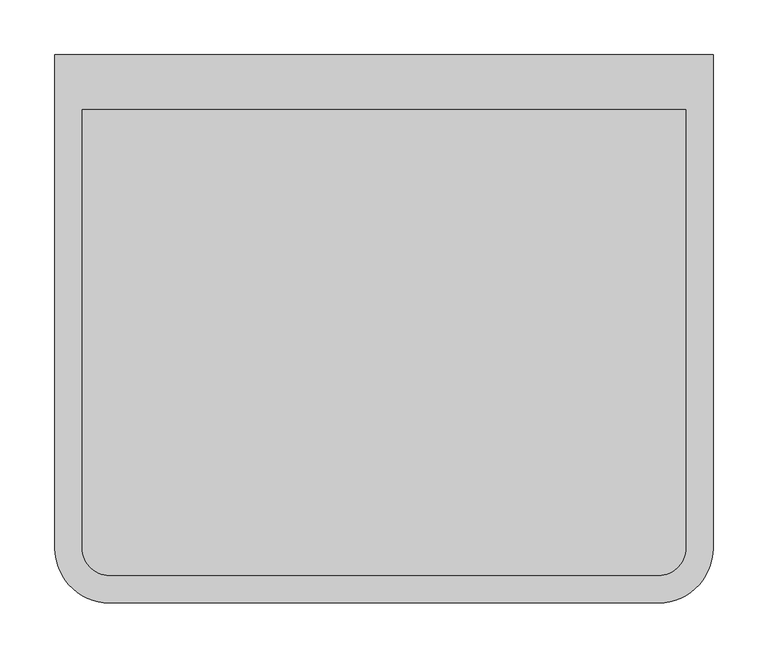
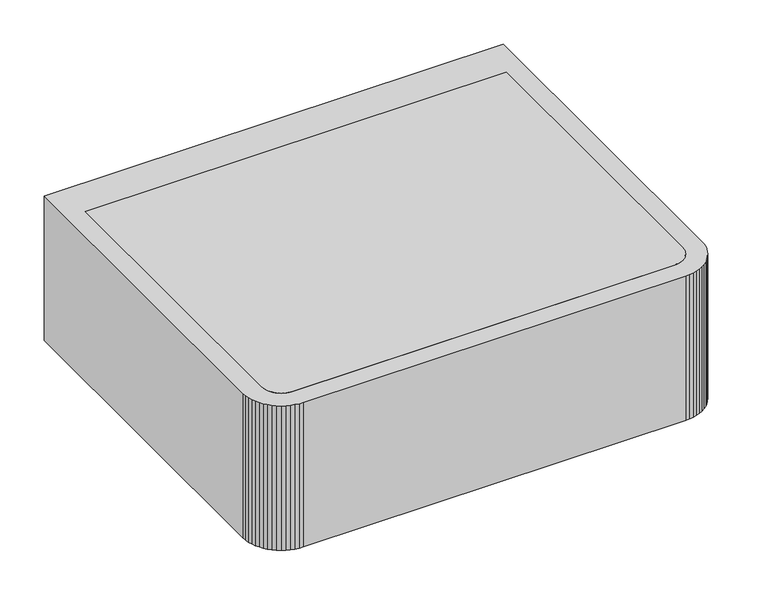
"""IFC4 building model written with IfcOpenShell, lengths in millimetres: proxy geometry, Ausgussbecken : Ausgussbecken."""

from ifc_helpers import new_model, si_unit, frame, origin, place, context, project, spatial, polyline, outline, extrude, source, transform, mapped, element, save


def generic_models_af65d3da(model_context):
    return source(origin(), model_context, "Body", "SweptSolid", [
        extrude(outline(polyline([(20356.8899067, 12600.0), (20906.8899067, 12600.0), (20906.8899067, 12200.0), (20906.7529541, 12197.3867884), (20906.3435967, 12194.8022077), (20905.6663196, 12192.2745751), (20904.7285431, 12189.8315839), (20903.5405418, 12187.5), (20902.1153315, 12185.3053687), (20900.4685273, 12183.2717348), (20898.6181718, 12181.4213794), (20896.584538, 12179.7745751), (20894.3899067, 12178.3493649), (20892.0583228, 12177.1613636), (20889.6153315, 12176.2235871), (20887.087699, 12175.54631), (20884.5031183, 12175.1369526), (20881.8899067, 12175.0), (20381.8899067, 12175.0), (20379.2766951, 12175.1369526), (20376.6921144, 12175.54631), (20374.1644818, 12176.2235871), (20371.7214906, 12177.1613636), (20369.3899067, 12178.3493649), (20367.1952754, 12179.7745751), (20365.1616415, 12181.4213794), (20363.3112861, 12183.2717348), (20361.6644818, 12185.3053687), (20360.2392716, 12187.5), (20359.0512702, 12189.8315839), (20358.1134938, 12192.2745751), (20357.4362167, 12194.8022077), (20357.0268593, 12197.3867884), (20356.8899067, 12200.0), (20356.8899067, 12600.0)])), frame((0.0, 0.0, 849.0), z_axis=(0.0, 0.0, 1.0), x_axis=(1.0, 0.0, 0.0)), (0.0, 0.0, 1.0), 1.0),
        extrude(outline(polyline([(20331.8899067, 12650.0), (20931.8899067, 12650.0), (20931.8899067, 12200.0), (20931.6160015, 12194.7735768), (20930.7972867, 12189.6044155), (20929.4427325, 12184.5491503), (20927.5671796, 12179.6631678), (20925.1911769, 12175.0), (20922.3407564, 12170.6107374), (20919.047148, 12166.5434697), (20915.346437, 12162.8427587), (20911.2791693, 12159.5491503), (20906.8899067, 12156.6987298), (20902.2267388, 12154.3227271), (20897.3407564, 12152.4471742), (20892.2854912, 12151.09262), (20887.1163299, 12150.2739052), (20881.8899067, 12150.0), (20381.8899067, 12150.0), (20376.6634835, 12150.2739052), (20371.4943221, 12151.09262), (20366.439057, 12152.4471742), (20361.5530745, 12154.3227271), (20356.8899067, 12156.6987298), (20352.5006441, 12159.5491503), (20348.4333764, 12162.8427587), (20344.7326654, 12166.5434697), (20341.439057, 12170.6107374), (20338.5886365, 12175.0), (20336.2126338, 12179.6631678), (20334.3370809, 12184.5491503), (20332.9825267, 12189.6044155), (20332.1638119, 12194.7735768), (20331.8899067, 12200.0), (20331.8899067, 12650.0)])), frame((0.0, 0.0, 650.0), z_axis=(0.0, 0.0, 1.0), x_axis=(1.0, 0.0, 0.0)), (0.0, 0.0, 1.0), 200.0),
    ])


if __name__ == "__main__":
    model = new_model("IFC4")
    model_context = context("Model", 3, world=origin())
    ifc_project = project(units=[si_unit("LENGTHUNIT", "METRE", prefix="MILLI")], contexts=[model_context])
    site = spatial("IfcSite", under=ifc_project)
    building = spatial("IfcBuilding", under=site)
    placement = place(None, origin())
    generic_models_shape = generic_models_af65d3da(model_context)
    element("IfcBuildingElementProxy", 1, Name="Ausgussbecken : Ausgussbecken", ObjectType="Ausgussbecken : Ausgussbecken", at=placement, inside=building, context=model_context, shape_type="MappedRepresentation", body=[
        mapped(generic_models_shape, transform((0.0, 0.0, 0.0), x_axis=(1.0, 0.0, 0.0), y_axis=(0.0, 1.0, 0.0), z_axis=(0.0, 0.0, 1.0))),
    ])
    save(model, "model.ifc")
